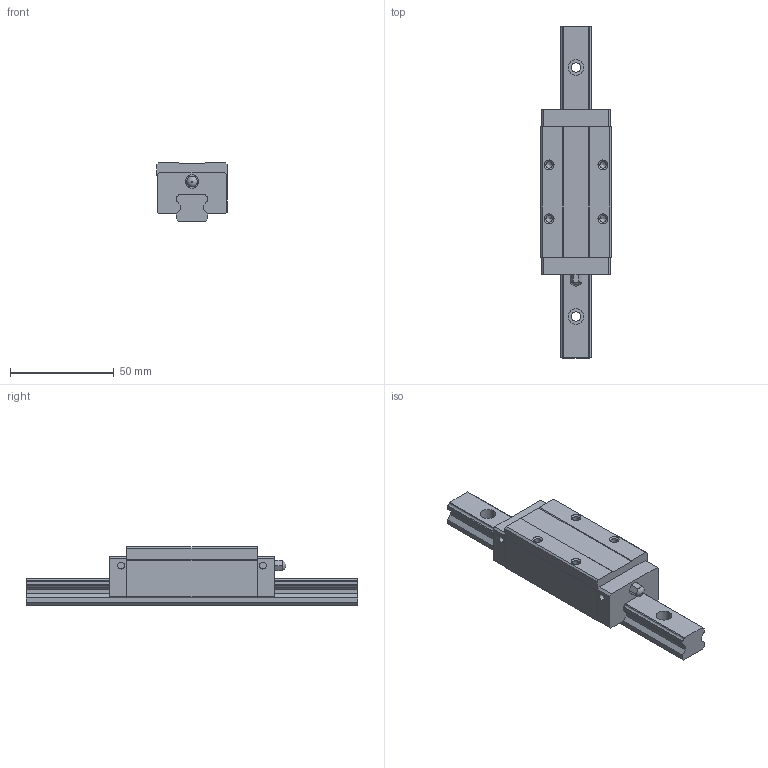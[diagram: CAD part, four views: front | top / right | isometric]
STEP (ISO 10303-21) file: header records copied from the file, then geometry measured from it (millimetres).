
FILE_DESCRIPTION((''),'1');
FILE_NAME(' ',' ',(''),(''),'ACIS Interop R16','Kubotek KeyCreator V6.5.2 (0407)',' ');
FILE_SCHEMA(('CONFIG_CONTROL_DESIGN'));
Length unit declared in the file: millimetre
Products named in the file (3): 1; 2; 3
Bounding box: 34 x 160 x 28 mm (x, y, z)
Volume: 79265.8 mm3; surface area: 22970.9 mm2
Topology: 3 solids, 3 shells, 149 faces, 390 edges, 254 vertices
Faces by surface type: plane 75, cylinder 54, cone 18, sphere 2
Entity records: 4700 total; most frequent: DIRECTION 822, CARTESIAN_POINT 788, ORIENTED_EDGE 764, EDGE_CURVE 382, AXIS2_PLACEMENT_3D 288, VERTEX_POINT 254, LINE 246, VECTOR 246
